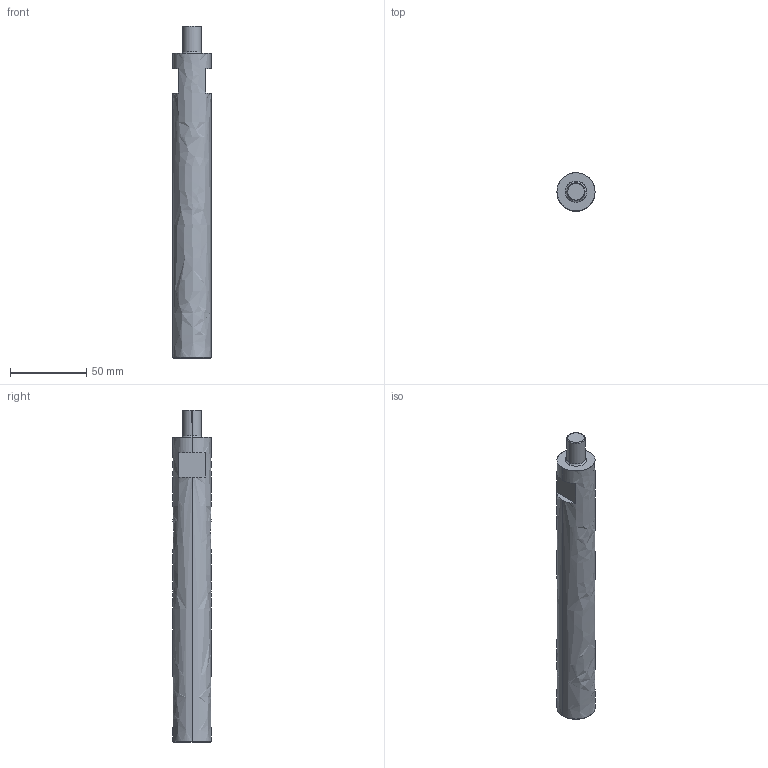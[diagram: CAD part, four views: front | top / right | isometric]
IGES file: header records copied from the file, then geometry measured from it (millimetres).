
Global section: file name: E:\UnigraphicsGraphicData\MISUMI_PRESS-PARTS\IGES\3d_mcup25-200_01361_r00.igs; native system: NX V5.0; preprocessor: UGS NX IGES V5.0; author: MISUMI; date: 20110105.161309; units: millimetre
Bounding box: 25 x 25 x 218 mm (x, y, z)
Surface area: 17430.9 mm2 (no closed solid volume)
Topology: 0 solids, 0 shells, 19 faces, 108 edges, 108 vertices
Faces by surface type: bspline 19
